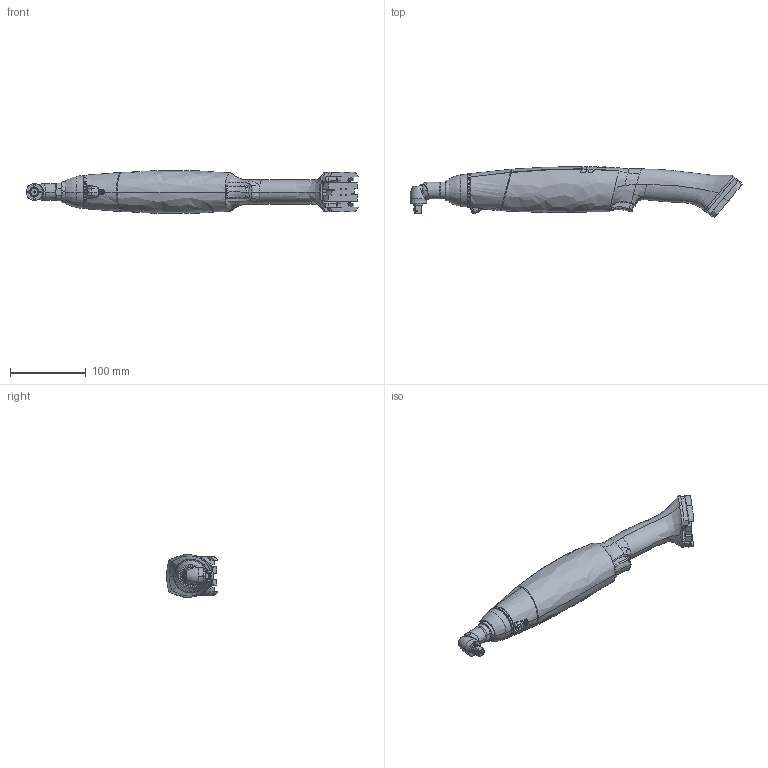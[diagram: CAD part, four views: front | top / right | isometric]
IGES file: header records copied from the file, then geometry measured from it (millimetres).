
Start section:  PTC IGES file: 6151658880.igs
Global section: file name: 6151658880.igs; native system: Creo Parametric by PTC Inc.; preprocessor: 2017020; author: greextsd; organization: Unknown; date: 20170725.095857; units: millimetre
Bounding box: 439.68 x 67.72 x 56.59 mm (x, y, z)
Volume: 218311.4 mm3; surface area: 135379.4 mm2
Topology: 4 solids, 4 shells, 810 faces, 2089 edges, 1300 vertices
Faces by surface type: bspline 521, revolution 245, extrusion 44
